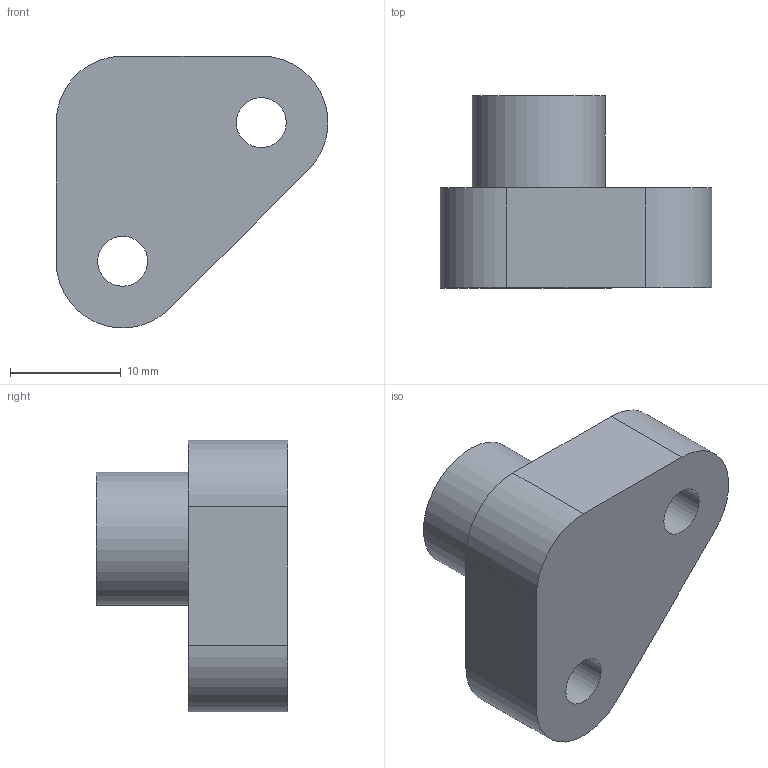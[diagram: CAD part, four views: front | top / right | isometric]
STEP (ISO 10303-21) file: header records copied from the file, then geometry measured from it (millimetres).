
FILE_DESCRIPTION(/* description */ (''),/* implementation_level */ '2;1');
FILE_NAME(/* name */ 'Mirror base-fixed-H17_3.stp',/* time_stamp */ '2026-04-13T15:00:00+08:00',/* author */ ('lbx20'),/* organization */ (''),/* preprocessor_version */ 'ST-DEVELOPER v20.1',/* originating_system */ 'Autodesk Inventor 2026',/* authorisation */ '');
FILE_SCHEMA (('AUTOMOTIVE_DESIGN { 1 0 10303 214 3 1 1 }'));
Length unit declared in the file: millimetre
Products named in the file (1): 零件11
Bounding box: 24.51 x 17.3 x 24.51 mm (x, y, z)
Volume: 4267.6 mm3; surface area: 2319 mm2
Topology: 1 solids, 1 shells, 18 faces, 38 edges, 25 vertices
Faces by surface type: cylinder 9, plane 8, cone 1
Full cylindrical faces by diameter (mm): 3.242 x1, 4.5 x2, 8 x2, 12 x1
Entity records: 538 total; most frequent: DIRECTION 93, CARTESIAN_POINT 81, ORIENTED_EDGE 74, EDGE_CURVE 37, AXIS2_PLACEMENT_3D 37, EDGE_LOOP 26, VERTEX_POINT 25, LINE 19
